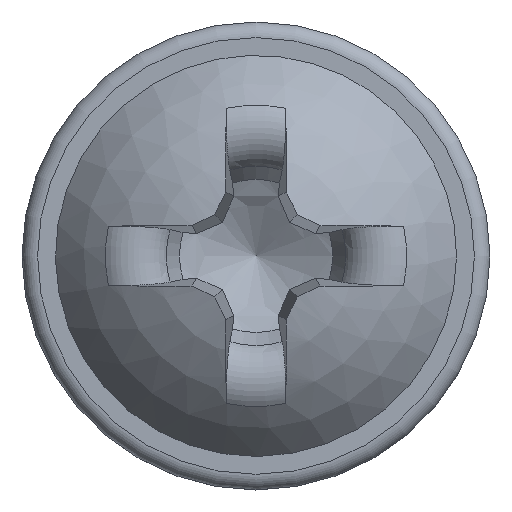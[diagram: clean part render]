
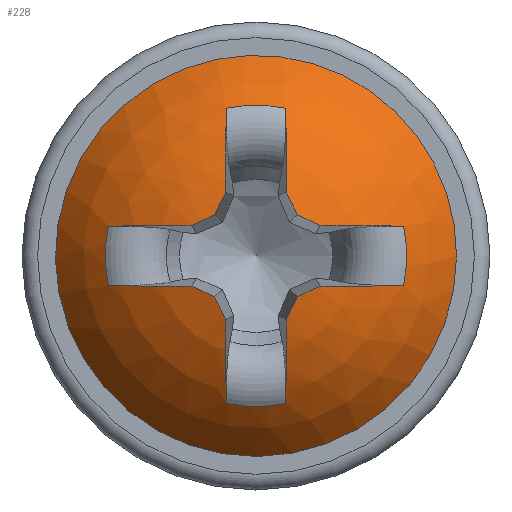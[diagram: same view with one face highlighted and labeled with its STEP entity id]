
A CAD part, top view. The second image highlights one B-rep face of the part: STEP entity #228.
In plain terms, the highlighted spherical face has radius 3.612 mm.
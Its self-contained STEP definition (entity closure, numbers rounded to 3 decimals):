
#189=SPHERICAL_SURFACE('',#1284,3.613);
#200=FACE_BOUND('',#376,.T.);
#201=FACE_BOUND('',#377,.T.);
#228=ADVANCED_FACE('',(#200,#201),#189,.T.);
#376=EDGE_LOOP('',(#534));
#377=EDGE_LOOP('',(#535,#536,#537,#538,#539,#540,#541,#542,#543,#544,#545,
#546,#547,#548,#549,#550,#551,#552,#553,#554));
#462=CIRCLE('',#1263,3.);
#463=CIRCLE('',#1264,3.611);
#464=CIRCLE('',#1265,2.253);
#465=CIRCLE('',#1266,3.611);
#466=CIRCLE('',#1267,3.583);
#467=CIRCLE('',#1268,3.583);
#468=CIRCLE('',#1269,3.611);
#469=CIRCLE('',#1270,2.253);
#470=CIRCLE('',#1271,3.611);
#471=CIRCLE('',#1272,3.583);
#472=CIRCLE('',#1273,3.583);
#473=CIRCLE('',#1274,3.611);
#474=CIRCLE('',#1275,2.253);
#475=CIRCLE('',#1276,3.611);
#476=CIRCLE('',#1277,3.583);
#477=CIRCLE('',#1278,3.583);
#478=CIRCLE('',#1279,3.611);
#479=CIRCLE('',#1280,2.253);
#480=CIRCLE('',#1281,3.611);
#481=CIRCLE('',#1282,3.583);
#482=CIRCLE('',#1283,3.583);
#534=ORIENTED_EDGE('',*,*,#1013,.T.);
#535=ORIENTED_EDGE('',*,*,#1014,.F.);
#536=ORIENTED_EDGE('',*,*,#1015,.T.);
#537=ORIENTED_EDGE('',*,*,#1016,.F.);
#538=ORIENTED_EDGE('',*,*,#1017,.F.);
#539=ORIENTED_EDGE('',*,*,#1018,.F.);
#540=ORIENTED_EDGE('',*,*,#1019,.F.);
#541=ORIENTED_EDGE('',*,*,#1020,.T.);
#542=ORIENTED_EDGE('',*,*,#1021,.F.);
#543=ORIENTED_EDGE('',*,*,#1022,.F.);
#544=ORIENTED_EDGE('',*,*,#1023,.F.);
#545=ORIENTED_EDGE('',*,*,#1024,.F.);
#546=ORIENTED_EDGE('',*,*,#1025,.T.);
#547=ORIENTED_EDGE('',*,*,#1026,.F.);
#548=ORIENTED_EDGE('',*,*,#1027,.F.);
#549=ORIENTED_EDGE('',*,*,#1028,.F.);
#550=ORIENTED_EDGE('',*,*,#1029,.F.);
#551=ORIENTED_EDGE('',*,*,#1030,.T.);
#552=ORIENTED_EDGE('',*,*,#1031,.F.);
#553=ORIENTED_EDGE('',*,*,#1032,.F.);
#554=ORIENTED_EDGE('',*,*,#1033,.F.);
#894=VERTEX_POINT('',#2952);
#895=VERTEX_POINT('',#2954);
#896=VERTEX_POINT('',#2955);
#897=VERTEX_POINT('',#2957);
#898=VERTEX_POINT('',#2959);
#899=VERTEX_POINT('',#2961);
#900=VERTEX_POINT('',#2963);
#901=VERTEX_POINT('',#2965);
#902=VERTEX_POINT('',#2967);
#903=VERTEX_POINT('',#2969);
#904=VERTEX_POINT('',#2971);
#905=VERTEX_POINT('',#2973);
#906=VERTEX_POINT('',#2975);
#907=VERTEX_POINT('',#2977);
#908=VERTEX_POINT('',#2979);
#909=VERTEX_POINT('',#2981);
#910=VERTEX_POINT('',#2983);
#911=VERTEX_POINT('',#2985);
#912=VERTEX_POINT('',#2987);
#913=VERTEX_POINT('',#2989);
#914=VERTEX_POINT('',#2991);
#1013=EDGE_CURVE('',#894,#894,#462,.T.);
#1014=EDGE_CURVE('',#895,#896,#463,.T.);
#1015=EDGE_CURVE('',#895,#897,#464,.T.);
#1016=EDGE_CURVE('',#898,#897,#465,.T.);
#1017=EDGE_CURVE('',#899,#898,#466,.T.);
#1018=EDGE_CURVE('',#900,#899,#467,.T.);
#1019=EDGE_CURVE('',#901,#900,#468,.T.);
#1020=EDGE_CURVE('',#901,#902,#469,.T.);
#1021=EDGE_CURVE('',#903,#902,#470,.T.);
#1022=EDGE_CURVE('',#904,#903,#471,.T.);
#1023=EDGE_CURVE('',#905,#904,#472,.T.);
#1024=EDGE_CURVE('',#906,#905,#473,.T.);
#1025=EDGE_CURVE('',#906,#907,#474,.T.);
#1026=EDGE_CURVE('',#908,#907,#475,.T.);
#1027=EDGE_CURVE('',#909,#908,#476,.T.);
#1028=EDGE_CURVE('',#910,#909,#477,.T.);
#1029=EDGE_CURVE('',#911,#910,#478,.T.);
#1030=EDGE_CURVE('',#911,#912,#479,.T.);
#1031=EDGE_CURVE('',#913,#912,#480,.T.);
#1032=EDGE_CURVE('',#914,#913,#481,.T.);
#1033=EDGE_CURVE('',#896,#914,#482,.T.);
#1263=AXIS2_PLACEMENT_3D('',#2951,#1350,#1351);
#1264=AXIS2_PLACEMENT_3D('',#2953,#1352,#1353);
#1265=AXIS2_PLACEMENT_3D('',#2956,#1354,#1355);
#1266=AXIS2_PLACEMENT_3D('',#2958,#1356,#1357);
#1267=AXIS2_PLACEMENT_3D('',#2960,#1358,#1359);
#1268=AXIS2_PLACEMENT_3D('',#2962,#1360,#1361);
#1269=AXIS2_PLACEMENT_3D('',#2964,#1362,#1363);
#1270=AXIS2_PLACEMENT_3D('',#2966,#1364,#1365);
#1271=AXIS2_PLACEMENT_3D('',#2968,#1366,#1367);
#1272=AXIS2_PLACEMENT_3D('',#2970,#1368,#1369);
#1273=AXIS2_PLACEMENT_3D('',#2972,#1370,#1371);
#1274=AXIS2_PLACEMENT_3D('',#2974,#1372,#1373);
#1275=AXIS2_PLACEMENT_3D('',#2976,#1374,#1375);
#1276=AXIS2_PLACEMENT_3D('',#2978,#1376,#1377);
#1277=AXIS2_PLACEMENT_3D('',#2980,#1378,#1379);
#1278=AXIS2_PLACEMENT_3D('',#2982,#1380,#1381);
#1279=AXIS2_PLACEMENT_3D('',#2984,#1382,#1383);
#1280=AXIS2_PLACEMENT_3D('',#2986,#1384,#1385);
#1281=AXIS2_PLACEMENT_3D('',#2988,#1386,#1387);
#1282=AXIS2_PLACEMENT_3D('',#2990,#1388,#1389);
#1283=AXIS2_PLACEMENT_3D('',#2992,#1390,#1391);
#1284=AXIS2_PLACEMENT_3D('',#2993,#1392,#1393);
#1350=DIRECTION('',(0.,0.,1.));
#1351=DIRECTION('',(1.,0.,0.));
#1352=DIRECTION('',(-0.035,0.996,0.087));
#1353=DIRECTION('',(0.,-0.087,0.996));
#1354=DIRECTION('',(0.,0.,-1.));
#1355=DIRECTION('',(-1.,0.,0.));
#1356=DIRECTION('',(-0.035,-0.996,0.087));
#1357=DIRECTION('',(0.,-0.087,-0.996));
#1358=DIRECTION('',(0.42,-0.902,0.1));
#1359=DIRECTION('',(0.906,0.423,0.));
#1360=DIRECTION('',(0.902,-0.42,0.1));
#1361=DIRECTION('',(0.423,0.906,0.));
#1362=DIRECTION('',(0.996,0.035,0.087));
#1363=DIRECTION('',(0.087,0.,-0.996));
#1364=DIRECTION('',(0.,0.,-1.));
#1365=DIRECTION('',(-1.,0.,0.));
#1366=DIRECTION('',(-0.996,0.035,0.087));
#1367=DIRECTION('',(0.087,0.,0.996));
#1368=DIRECTION('',(-0.902,-0.42,0.1));
#1369=DIRECTION('',(0.423,-0.906,0.));
#1370=DIRECTION('',(-0.42,-0.902,0.1));
#1371=DIRECTION('',(0.906,-0.423,0.));
#1372=DIRECTION('',(0.035,-0.996,0.087));
#1373=DIRECTION('',(0.,-0.087,-0.996));
#1374=DIRECTION('',(0.,0.,-1.));
#1375=DIRECTION('',(-1.,0.,0.));
#1376=DIRECTION('',(0.035,0.996,0.087));
#1377=DIRECTION('',(0.,-0.087,0.996));
#1378=DIRECTION('',(-0.42,0.902,0.1));
#1379=DIRECTION('',(-0.906,-0.423,0.));
#1380=DIRECTION('',(-0.902,0.42,0.1));
#1381=DIRECTION('',(-0.423,-0.906,0.));
#1382=DIRECTION('',(-0.996,-0.035,0.087));
#1383=DIRECTION('',(0.087,0.,0.996));
#1384=DIRECTION('',(0.,0.,-1.));
#1385=DIRECTION('',(-1.,0.,0.));
#1386=DIRECTION('',(0.996,-0.035,0.087));
#1387=DIRECTION('',(0.087,0.,-0.996));
#1388=DIRECTION('',(0.902,0.42,0.1));
#1389=DIRECTION('',(-0.423,0.906,0.));
#1390=DIRECTION('',(0.42,0.902,0.1));
#1391=DIRECTION('',(-0.906,0.423,0.));
#1392=DIRECTION('',(0.,0.,1.));
#1393=DIRECTION('',(0.,1.,0.));
#2951=CARTESIAN_POINT('',(0.,0.,0.8));
#2952=CARTESIAN_POINT('',(3.,0.,0.8));
#2953=CARTESIAN_POINT('',(0.004,-0.116,-1.223));
#2954=CARTESIAN_POINT('',(-2.209,-0.441,1.611));
#2955=CARTESIAN_POINT('',(-0.956,-0.453,2.242));
#2956=CARTESIAN_POINT('',(0.,0.,1.611));
#2957=CARTESIAN_POINT('',(-2.209,0.441,1.611));
#2958=CARTESIAN_POINT('',(0.004,0.116,-1.223));
#2959=CARTESIAN_POINT('',(-0.956,0.453,2.242));
#2960=CARTESIAN_POINT('',(-0.195,0.418,-1.259));
#2961=CARTESIAN_POINT('',(-0.617,0.617,2.293));
#2962=CARTESIAN_POINT('',(-0.418,0.195,-1.259));
#2963=CARTESIAN_POINT('',(-0.453,0.956,2.242));
#2964=CARTESIAN_POINT('',(-0.116,-0.004,-1.223));
#2965=CARTESIAN_POINT('',(-0.441,2.209,1.611));
#2966=CARTESIAN_POINT('',(0.,0.,1.611));
#2967=CARTESIAN_POINT('',(0.441,2.209,1.611));
#2968=CARTESIAN_POINT('',(0.116,-0.004,-1.223));
#2969=CARTESIAN_POINT('',(0.453,0.956,2.242));
#2970=CARTESIAN_POINT('',(0.418,0.195,-1.259));
#2971=CARTESIAN_POINT('',(0.617,0.617,2.293));
#2972=CARTESIAN_POINT('',(0.195,0.418,-1.259));
#2973=CARTESIAN_POINT('',(0.956,0.453,2.242));
#2974=CARTESIAN_POINT('',(-0.004,0.116,-1.223));
#2975=CARTESIAN_POINT('',(2.209,0.441,1.611));
#2976=CARTESIAN_POINT('',(0.,0.,1.611));
#2977=CARTESIAN_POINT('',(2.209,-0.441,1.611));
#2978=CARTESIAN_POINT('',(-0.004,-0.116,-1.223));
#2979=CARTESIAN_POINT('',(0.956,-0.453,2.242));
#2980=CARTESIAN_POINT('',(0.195,-0.418,-1.259));
#2981=CARTESIAN_POINT('',(0.617,-0.617,2.293));
#2982=CARTESIAN_POINT('',(0.418,-0.195,-1.259));
#2983=CARTESIAN_POINT('',(0.453,-0.956,2.242));
#2984=CARTESIAN_POINT('',(0.116,0.004,-1.223));
#2985=CARTESIAN_POINT('',(0.441,-2.209,1.611));
#2986=CARTESIAN_POINT('',(0.,0.,1.611));
#2987=CARTESIAN_POINT('',(-0.441,-2.209,1.611));
#2988=CARTESIAN_POINT('',(-0.116,0.004,-1.223));
#2989=CARTESIAN_POINT('',(-0.453,-0.956,2.242));
#2990=CARTESIAN_POINT('',(-0.418,-0.195,-1.259));
#2991=CARTESIAN_POINT('',(-0.617,-0.617,2.293));
#2992=CARTESIAN_POINT('',(-0.195,-0.418,-1.259));
#2993=CARTESIAN_POINT('',(0.,0.,-1.213));
